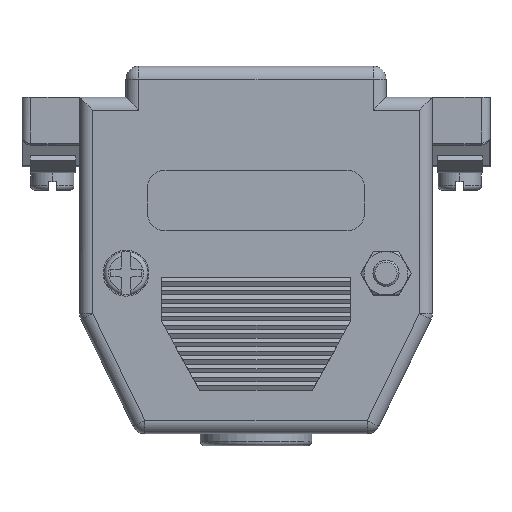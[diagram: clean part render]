
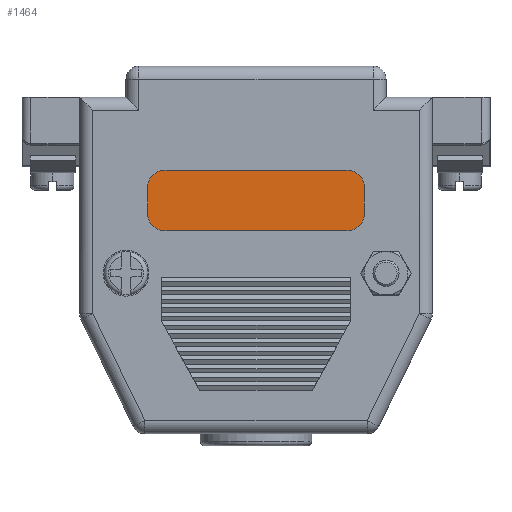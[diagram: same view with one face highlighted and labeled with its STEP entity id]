
A CAD part, top view. The second image highlights one B-rep face of the part: STEP entity #1464.
In plain terms, the highlighted planar face has unit normal (0, 0, 1).
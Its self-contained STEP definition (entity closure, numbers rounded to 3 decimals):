
#829=FACE_OUTER_BOUND('',#2473,.T.);
#1464=ADVANCED_FACE('',(#829),#1838,.T.);
#1838=PLANE('',#11411);
#2473=EDGE_LOOP('',(#5528,#5529,#5530,#5531,#5532,#5533,#5534,#5535));
#2918=CIRCLE('',#11400,2.);
#2919=CIRCLE('',#11403,2.);
#2920=CIRCLE('',#11406,2.);
#2921=CIRCLE('',#11409,2.);
#5528=ORIENTED_EDGE('',*,*,#8306,.F.);
#5529=ORIENTED_EDGE('',*,*,#8304,.F.);
#5530=ORIENTED_EDGE('',*,*,#8302,.F.);
#5531=ORIENTED_EDGE('',*,*,#8300,.F.);
#5532=ORIENTED_EDGE('',*,*,#8298,.F.);
#5533=ORIENTED_EDGE('',*,*,#8296,.F.);
#5534=ORIENTED_EDGE('',*,*,#8294,.F.);
#5535=ORIENTED_EDGE('',*,*,#8292,.F.);
#6860=VERTEX_POINT('',#17664);
#6861=VERTEX_POINT('',#17666);
#6862=VERTEX_POINT('',#17670);
#6863=VERTEX_POINT('',#17674);
#6864=VERTEX_POINT('',#17678);
#6865=VERTEX_POINT('',#17682);
#6866=VERTEX_POINT('',#17686);
#6867=VERTEX_POINT('',#17690);
#8292=EDGE_CURVE('',#6860,#6861,#9398,.T.);
#8294=EDGE_CURVE('',#6861,#6862,#2918,.T.);
#8296=EDGE_CURVE('',#6862,#6863,#9401,.T.);
#8298=EDGE_CURVE('',#6863,#6864,#2919,.T.);
#8300=EDGE_CURVE('',#6864,#6865,#9404,.T.);
#8302=EDGE_CURVE('',#6865,#6866,#2920,.T.);
#8304=EDGE_CURVE('',#6866,#6867,#9407,.T.);
#8306=EDGE_CURVE('',#6867,#6860,#2921,.T.);
#9398=LINE('',#17665,#10420);
#9401=LINE('',#17673,#10423);
#9404=LINE('',#17681,#10426);
#9407=LINE('',#17689,#10429);
#10420=VECTOR('',#14075,1.);
#10423=VECTOR('',#14084,1.);
#10426=VECTOR('',#14093,1.);
#10429=VECTOR('',#14102,1.);
#11400=AXIS2_PLACEMENT_3D('',#17669,#14079,#14080);
#11403=AXIS2_PLACEMENT_3D('',#17677,#14088,#14089);
#11406=AXIS2_PLACEMENT_3D('',#17685,#14097,#14098);
#11409=AXIS2_PLACEMENT_3D('',#17693,#14106,#14107);
#11411=AXIS2_PLACEMENT_3D('',#17695,#14110,#14111);
#14075=DIRECTION('',(0.,1.,0.));
#14079=DIRECTION('',(0.,0.,-1.));
#14080=DIRECTION('',(-1.,0.,0.));
#14084=DIRECTION('',(1.,0.,0.));
#14088=DIRECTION('',(0.,0.,-1.));
#14089=DIRECTION('',(0.,1.,0.));
#14093=DIRECTION('',(0.,-1.,0.));
#14097=DIRECTION('',(0.,0.,-1.));
#14098=DIRECTION('',(1.,0.,0.));
#14102=DIRECTION('',(-1.,0.,0.));
#14106=DIRECTION('',(0.,0.,-1.));
#14107=DIRECTION('',(0.,-1.,0.));
#14110=DIRECTION('',(0.,0.,1.));
#14111=DIRECTION('',(-1.,0.,0.));
#17664=CARTESIAN_POINT('',(-36.068,-0.537,40.118));
#17665=CARTESIAN_POINT('',(-36.068,-0.537,40.118));
#17666=CARTESIAN_POINT('',(-36.068,2.463,40.118));
#17669=CARTESIAN_POINT('',(-34.068,2.463,40.118));
#17670=CARTESIAN_POINT('',(-34.068,4.463,40.118));
#17673=CARTESIAN_POINT('',(-34.068,4.463,40.118));
#17674=CARTESIAN_POINT('',(-13.068,4.463,40.118));
#17677=CARTESIAN_POINT('',(-13.068,2.463,40.118));
#17678=CARTESIAN_POINT('',(-11.068,2.463,40.118));
#17681=CARTESIAN_POINT('',(-11.068,2.463,40.118));
#17682=CARTESIAN_POINT('',(-11.068,-0.537,40.118));
#17685=CARTESIAN_POINT('',(-13.068,-0.537,40.118));
#17686=CARTESIAN_POINT('',(-13.068,-2.537,40.118));
#17689=CARTESIAN_POINT('',(-13.068,-2.537,40.118));
#17690=CARTESIAN_POINT('',(-34.068,-2.537,40.118));
#17693=CARTESIAN_POINT('',(-34.068,-0.537,40.118));
#17695=CARTESIAN_POINT('',(-3.218,5.635,40.118));
